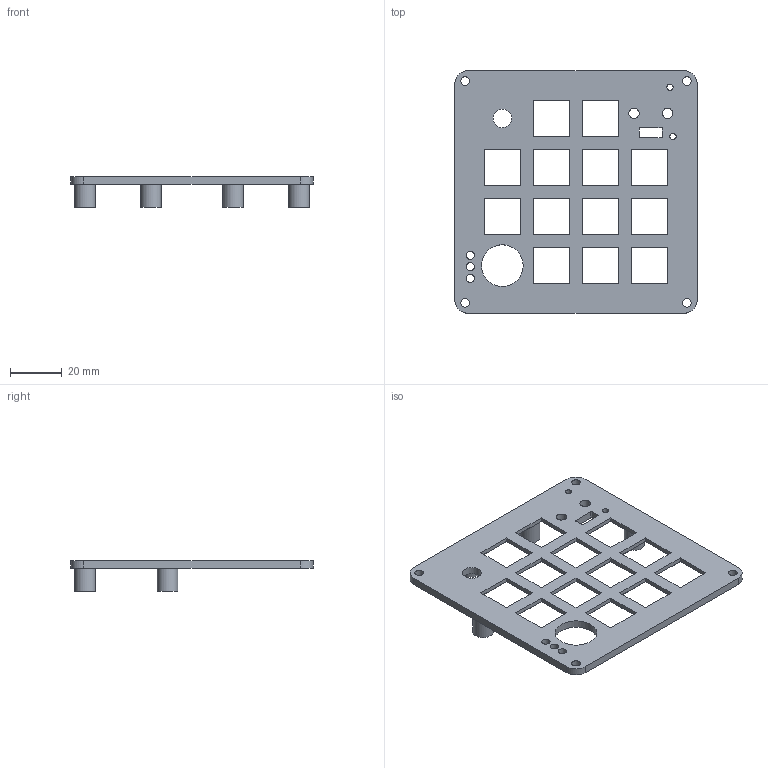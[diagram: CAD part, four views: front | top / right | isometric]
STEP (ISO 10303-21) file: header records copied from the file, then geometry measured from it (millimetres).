
FILE_DESCRIPTION(('Open CASCADE Model'),'2;1');
FILE_NAME('Open CASCADE Shape Model','2026-09-15T22:36:37',('Author'),( 'Open CASCADE'),'Open CASCADE STEP processor 7.9','Open CASCADE 7.9' ,'Unknown');
FILE_SCHEMA(('AUTOMOTIVE_DESIGN { 1 0 10303 214 1 1 1 1 }'));
Length unit declared in the file: millimetre
Products named in the file (1): Open CASCADE STEP translator 7.9 5
Bounding box: 94 x 94 x 12 mm (x, y, z)
Volume: 17571.5 mm3; surface area: 17043.9 mm2
Topology: 1 solids, 1 shells, 177 faces, 447 edges, 298 vertices
Faces by surface type: plane 144, cylinder 33
Full cylindrical faces by diameter (mm): 2.4 x2, 3.2 x3, 3.4 x8, 3.9 x4, 4 x2, 7.2 x1, 8 x4, 16.2 x1
Entity records: 11306 total; most frequent: CARTESIAN_POINT 2085, DIRECTION 1705, LINE 1193, VECTOR 1193, ORIENTED_EDGE 894, PCURVE 894, DEFINITIONAL_REPRESENTATION 894, EDGE_CURVE 447
